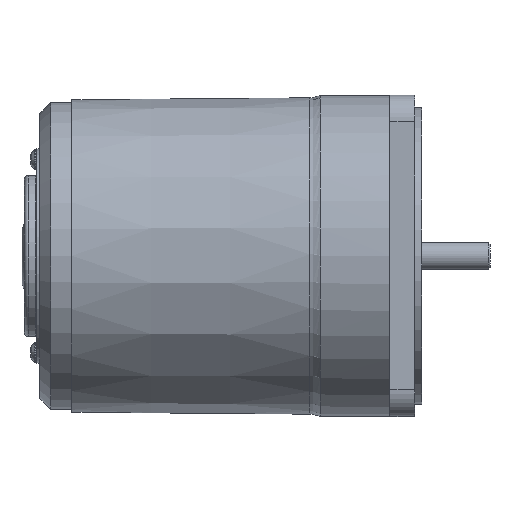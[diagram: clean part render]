
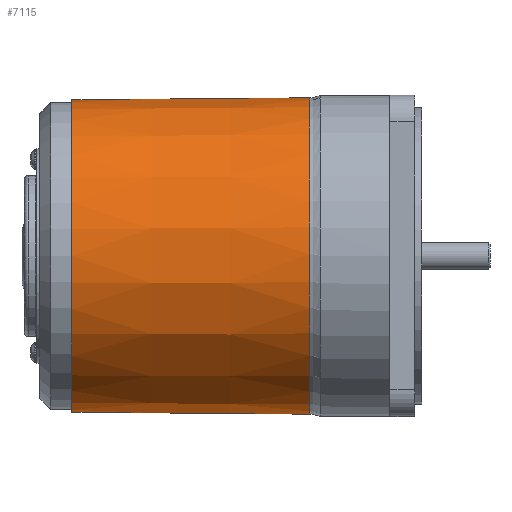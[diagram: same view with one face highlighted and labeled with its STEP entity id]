
A CAD part, top view. The second image highlights one B-rep face of the part: STEP entity #7115.
In plain terms, the highlighted conical face has half-angle 0.48 degrees and reference radius 44.029 mm.
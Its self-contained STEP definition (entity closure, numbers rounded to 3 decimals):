
#16=CONICAL_SURFACE('',#7702,44.029,0.48);
#206=B_SPLINE_CURVE_WITH_KNOTS('',3,(#12196,#12197,#12198,#12199),
 .UNSPECIFIED.,.F.,.F.,(4,4),(3.648,3.698),
 .UNSPECIFIED.);
#207=B_SPLINE_CURVE_WITH_KNOTS('',3,(#12200,#12201,#12202,#12203),
 .UNSPECIFIED.,.F.,.F.,(4,4),(-6.954,-3.698),
 .UNSPECIFIED.);
#208=B_SPLINE_CURVE_WITH_KNOTS('',3,(#12205,#12206,#12207,#12208),
 .UNSPECIFIED.,.F.,.F.,(4,4),(-3.256,0.),.UNSPECIFIED.);
#209=B_SPLINE_CURVE_WITH_KNOTS('',3,(#12210,#12211,#12212,#12213),
 .UNSPECIFIED.,.F.,.F.,(4,4),(3.256,3.306),
 .UNSPECIFIED.);
#476=FACE_BOUND('',#1486,.T.);
#647=CIRCLE('',#7685,43.75);
#657=CIRCLE('',#7701,44.308);
#658=CIRCLE('',#7703,44.031);
#1009=FACE_OUTER_BOUND('',#1485,.T.);
#1485=EDGE_LOOP('',(#5498,#5499,#5500,#5501,#5502,#5503));
#1486=EDGE_LOOP('',(#5504));
#3117=VERTEX_POINT('',#12072);
#3128=VERTEX_POINT('',#12133);
#3140=VERTEX_POINT('',#12186);
#3141=VERTEX_POINT('',#12194);
#3142=VERTEX_POINT('',#12195);
#3143=VERTEX_POINT('',#12204);
#3144=VERTEX_POINT('',#12209);
#3948=EDGE_CURVE('',#3117,#3117,#647,.T.);
#3974=EDGE_CURVE('',#3128,#3140,#657,.T.);
#3975=EDGE_CURVE('',#3141,#3142,#206,.T.);
#3976=EDGE_CURVE('',#3140,#3142,#207,.T.);
#3977=EDGE_CURVE('',#3143,#3128,#208,.T.);
#3978=EDGE_CURVE('',#3143,#3144,#209,.T.);
#3979=EDGE_CURVE('',#3141,#3144,#658,.T.);
#5498=ORIENTED_EDGE('',*,*,#3975,.T.);
#5499=ORIENTED_EDGE('',*,*,#3976,.F.);
#5500=ORIENTED_EDGE('',*,*,#3974,.F.);
#5501=ORIENTED_EDGE('',*,*,#3977,.F.);
#5502=ORIENTED_EDGE('',*,*,#3978,.T.);
#5503=ORIENTED_EDGE('',*,*,#3979,.F.);
#5504=ORIENTED_EDGE('',*,*,#3948,.T.);
#7115=ADVANCED_FACE('',(#1009,#476),#16,.T.);
#7685=AXIS2_PLACEMENT_3D('',#12073,#9044,#9045);
#7701=AXIS2_PLACEMENT_3D('',#12192,#9083,#9084);
#7702=AXIS2_PLACEMENT_3D('',#12193,#9085,#9086);
#7703=AXIS2_PLACEMENT_3D('',#12214,#9087,#9088);
#9044=DIRECTION('center_axis',(1.,0.,0.));
#9045=DIRECTION('ref_axis',(0.,1.,0.));
#9083=DIRECTION('center_axis',(1.,0.,0.));
#9084=DIRECTION('ref_axis',(0.,1.,0.));
#9085=DIRECTION('center_axis',(1.,0.,0.));
#9086=DIRECTION('ref_axis',(0.,1.,0.));
#9087=DIRECTION('center_axis',(1.,0.,0.));
#9088=DIRECTION('ref_axis',(0.,0.,-1.));
#12072=CARTESIAN_POINT('',(9.,43.75,0.));
#12073=CARTESIAN_POINT('Origin',(9.,0.,
0.));
#12133=CARTESIAN_POINT('',(75.559,29.222,-33.306));
#12186=CARTESIAN_POINT('',(75.559,-29.222,-33.306));
#12192=CARTESIAN_POINT('Origin',(75.559,0.,
0.));
#12193=CARTESIAN_POINT('Origin',(42.279,0.,
0.));
#12194=CARTESIAN_POINT('',(42.504,-29.21,-32.947));
#12195=CARTESIAN_POINT('',(43.,-29.21,-32.952));
#12196=CARTESIAN_POINT('Ctrl Pts',(42.504,-29.21,-32.947));
#12197=CARTESIAN_POINT('Ctrl Pts',(42.669,-29.21,-32.949));
#12198=CARTESIAN_POINT('Ctrl Pts',(42.835,-29.21,-32.95));
#12199=CARTESIAN_POINT('Ctrl Pts',(43.,-29.21,-32.952));
#12200=CARTESIAN_POINT('Ctrl Pts',(75.559,-29.222,-33.306));
#12201=CARTESIAN_POINT('Ctrl Pts',(64.706,-29.218,-33.188));
#12202=CARTESIAN_POINT('Ctrl Pts',(53.853,-29.214,-33.07));
#12203=CARTESIAN_POINT('Ctrl Pts',(43.,-29.21,-32.952));
#12204=CARTESIAN_POINT('',(43.,29.21,-32.952));
#12205=CARTESIAN_POINT('Ctrl Pts',(43.,29.21,-32.952));
#12206=CARTESIAN_POINT('Ctrl Pts',(53.853,29.214,-33.07));
#12207=CARTESIAN_POINT('Ctrl Pts',(64.706,29.218,-33.188));
#12208=CARTESIAN_POINT('Ctrl Pts',(75.559,29.222,-33.306));
#12209=CARTESIAN_POINT('',(42.504,29.21,-32.947));
#12210=CARTESIAN_POINT('Ctrl Pts',(43.,29.21,-32.952));
#12211=CARTESIAN_POINT('Ctrl Pts',(42.835,29.21,-32.95));
#12212=CARTESIAN_POINT('Ctrl Pts',(42.669,29.21,-32.949));
#12213=CARTESIAN_POINT('Ctrl Pts',(42.504,29.21,-32.947));
#12214=CARTESIAN_POINT('Origin',(42.504,0.,
0.));
